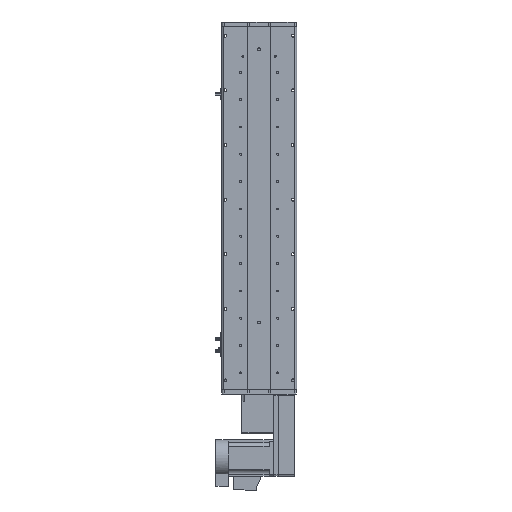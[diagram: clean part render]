
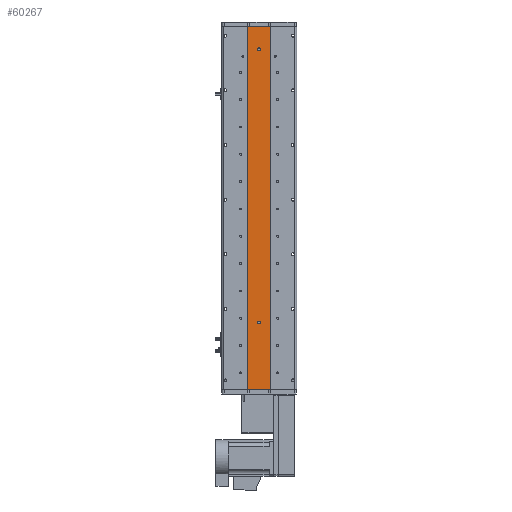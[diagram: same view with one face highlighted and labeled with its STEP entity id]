
A CAD part, front view. The second image highlights one B-rep face of the part: STEP entity #60267.
In plain terms, the highlighted planar face has unit normal (0, -1, 0).
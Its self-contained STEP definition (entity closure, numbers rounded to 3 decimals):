
#242 = CARTESIAN_POINT ( 'NONE',  ( -25., 1., 398.5 ) ) ;
#485 = VERTEX_POINT ( 'NONE', #27111 ) ;
#650 = CARTESIAN_POINT ( 'NONE',  ( 25., 1., 398.5 ) ) ;
#1212 = CARTESIAN_POINT ( 'NONE',  ( 0., 1., -251.5 ) ) ;
#4652 = VERTEX_POINT ( 'NONE', #39241 ) ;
#5081 = CARTESIAN_POINT ( 'NONE',  ( -25., 1., -398.5 ) ) ;
#6036 = DIRECTION ( 'NONE',  ( 0., 0., -1. ) ) ;
#6231 = ORIENTED_EDGE ( 'NONE', *, *, #16334, .T. ) ;
#6672 = CARTESIAN_POINT ( 'NONE',  ( -25., 1., 398.5 ) ) ;
#7291 = DIRECTION ( 'NONE',  ( 0., -1., 0. ) ) ;
#8971 = ORIENTED_EDGE ( 'NONE', *, *, #27336, .F. ) ;
#9693 = LINE ( 'NONE', #41712, #20956 ) ;
#10829 = ORIENTED_EDGE ( 'NONE', *, *, #58961, .F. ) ;
#11613 = ORIENTED_EDGE ( 'NONE', *, *, #56697, .T. ) ;
#12530 = DIRECTION ( 'NONE',  ( 0., 0., 1. ) ) ;
#15056 = VERTEX_POINT ( 'NONE', #44690 ) ;
#15564 = DIRECTION ( 'NONE',  ( 0., -1., 0. ) ) ;
#16334 = EDGE_CURVE ( 'NONE', #46238, #15056, #43314, .T. ) ;
#16462 = DIRECTION ( 'NONE',  ( 0., 0., -1. ) ) ;
#17071 = EDGE_LOOP ( 'NONE', ( #47345, #10829 ) ) ;
#18405 = EDGE_LOOP ( 'NONE', ( #6231, #30013, #8971, #11613 ) ) ;
#19119 = FACE_BOUND ( 'NONE', #42888, .T. ) ;
#20823 = CARTESIAN_POINT ( 'NONE',  ( 0., 1., -251.5 ) ) ;
#20956 = VECTOR ( 'NONE', #42132, 1000. ) ;
#21084 = ORIENTED_EDGE ( 'NONE', *, *, #56734, .F. ) ;
#21626 = CARTESIAN_POINT ( 'NONE',  ( 0., 1., 351.5 ) ) ;
#21687 = AXIS2_PLACEMENT_3D ( 'NONE', #31681, #41279, #12530 ) ;
#23394 = VERTEX_POINT ( 'NONE', #21626 ) ;
#24785 = CIRCLE ( 'NONE', #51718, 3. ) ;
#25121 = VERTEX_POINT ( 'NONE', #59516 ) ;
#25676 = DIRECTION ( 'NONE',  ( 0., 0., -1. ) ) ;
#27111 = CARTESIAN_POINT ( 'NONE',  ( 0., 1., -254.5 ) ) ;
#27336 = EDGE_CURVE ( 'NONE', #47058, #25121, #9693, .T. ) ;
#27418 = AXIS2_PLACEMENT_3D ( 'NONE', #1212, #34840, #6036 ) ;
#30013 = ORIENTED_EDGE ( 'NONE', *, *, #62218, .F. ) ;
#31681 = CARTESIAN_POINT ( 'NONE',  ( 25., 1., 398.5 ) ) ;
#31802 = CIRCLE ( 'NONE', #27418, 3. ) ;
#34535 = CIRCLE ( 'NONE', #45292, 3. ) ;
#34729 = EDGE_CURVE ( 'NONE', #485, #36228, #34535, .T. ) ;
#34840 = DIRECTION ( 'NONE',  ( 0., -1., 0. ) ) ;
#35912 = VECTOR ( 'NONE', #16462, 1000. ) ;
#36100 = CARTESIAN_POINT ( 'NONE',  ( 0., 1., 348.5 ) ) ;
#36228 = VERTEX_POINT ( 'NONE', #54045 ) ;
#36422 = DIRECTION ( 'NONE',  ( 1., 0., 0. ) ) ;
#36511 = PLANE ( 'NONE',  #21687 ) ;
#39057 = DIRECTION ( 'NONE',  ( 0., 0., -1. ) ) ;
#39241 = CARTESIAN_POINT ( 'NONE',  ( 0., 1., 345.5 ) ) ;
#40863 = DIRECTION ( 'NONE',  ( 0., 0., -1. ) ) ;
#41279 = DIRECTION ( 'NONE',  ( 0., 1., 0. ) ) ;
#41712 = CARTESIAN_POINT ( 'NONE',  ( 25., 1., 398.5 ) ) ;
#41823 = VECTOR ( 'NONE', #36422, 1000. ) ;
#42132 = DIRECTION ( 'NONE',  ( 1., 0., 0. ) ) ;
#42583 = CIRCLE ( 'NONE', #49035, 3. ) ;
#42888 = EDGE_LOOP ( 'NONE', ( #21084, #59012 ) ) ;
#43137 = FACE_BOUND ( 'NONE', #17071, .T. ) ;
#43314 = LINE ( 'NONE', #46059, #41823 ) ;
#44362 = CARTESIAN_POINT ( 'NONE',  ( 0., 1., 348.5 ) ) ;
#44690 = CARTESIAN_POINT ( 'NONE',  ( 25., 1., -398.5 ) ) ;
#45292 = AXIS2_PLACEMENT_3D ( 'NONE', #20823, #54459, #25676 ) ;
#46059 = CARTESIAN_POINT ( 'NONE',  ( 25., 1., -398.5 ) ) ;
#46238 = VERTEX_POINT ( 'NONE', #5081 ) ;
#47058 = VERTEX_POINT ( 'NONE', #242 ) ;
#47345 = ORIENTED_EDGE ( 'NONE', *, *, #34729, .F. ) ;
#48914 = LINE ( 'NONE', #650, #60250 ) ;
#49035 = AXIS2_PLACEMENT_3D ( 'NONE', #36100, #7291, #40863 ) ;
#49218 = DIRECTION ( 'NONE',  ( 0., 0., -1. ) ) ;
#51718 = AXIS2_PLACEMENT_3D ( 'NONE', #44362, #15564, #49218 ) ;
#54024 = EDGE_CURVE ( 'NONE', #23394, #4652, #24785, .T. ) ;
#54045 = CARTESIAN_POINT ( 'NONE',  ( 0., 1., -248.5 ) ) ;
#54459 = DIRECTION ( 'NONE',  ( 0., -1., 0. ) ) ;
#56660 = FACE_OUTER_BOUND ( 'NONE', #18405, .T. ) ;
#56697 = EDGE_CURVE ( 'NONE', #47058, #46238, #58456, .T. ) ;
#56734 = EDGE_CURVE ( 'NONE', #4652, #23394, #42583, .T. ) ;
#58456 = LINE ( 'NONE', #6672, #35912 ) ;
#58961 = EDGE_CURVE ( 'NONE', #36228, #485, #31802, .T. ) ;
#59012 = ORIENTED_EDGE ( 'NONE', *, *, #54024, .F. ) ;
#59516 = CARTESIAN_POINT ( 'NONE',  ( 25., 1., 398.5 ) ) ;
#60250 = VECTOR ( 'NONE', #39057, 1000. ) ;
#60267 = ADVANCED_FACE ( 'NONE', ( #19119, #43137, #56660 ), #36511, .F. ) ;
#62218 = EDGE_CURVE ( 'NONE', #25121, #15056, #48914, .T. ) ;
